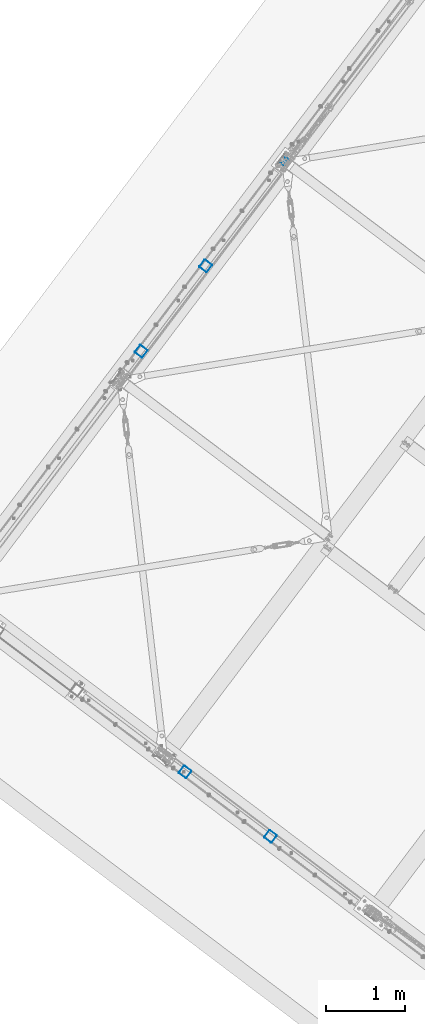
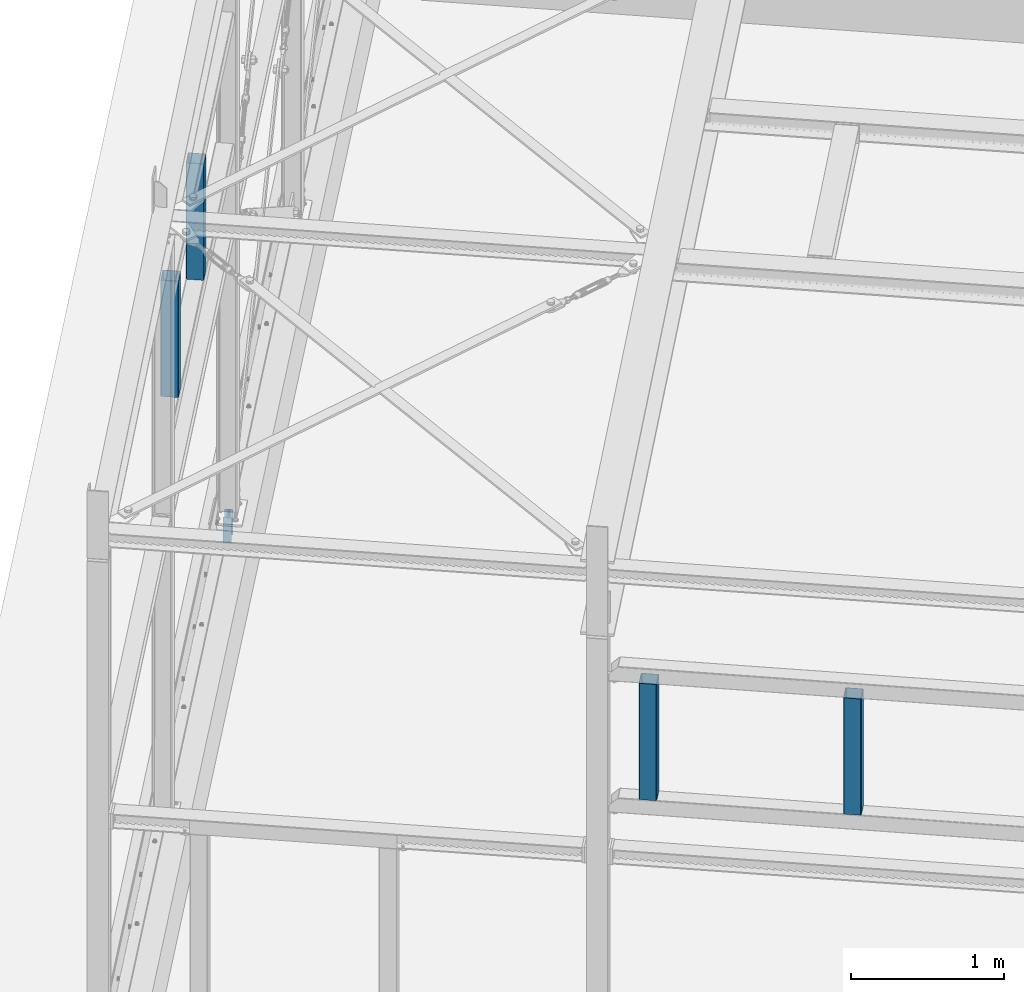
# One storey, part 9 of 476: 5 columns, 2 openings.
"""IFC2X3 building model written with IfcOpenShell, lengths in millimetres."""

from ifc_helpers import new_model, entity, si_unit, converted_unit, frame, origin, origin_with_axes, origin_2d, origin_2d_with_axis, place, context, project, spatial, hollow_rectangle, circle, i_section, extrude, material, element, save


model = new_model("IFC2X3")

# Units and contexts
model_context = context("Model", 3, precision=1e-09, world=origin_with_axes())
ifc_project = project(units=[si_unit("LENGTHUNIT", "METRE", prefix="MILLI"), si_unit("AREAUNIT", "SQUARE_METRE"), si_unit("VOLUMEUNIT", "CUBIC_METRE"), converted_unit("PLANEANGLEUNIT", "DEGREE", entity("IfcPlaneAngleMeasure", 0.01745329), si_unit("PLANEANGLEUNIT", "RADIAN"), dimensions=[0, 0, 0, 0, 0, 0, 0])], contexts=[model_context])

# Site, building, storey
site_placement = place(None, origin_with_axes())
site = spatial("IfcSite", under=ifc_project, at=site_placement, Name="mKR Teilneubau & Sanierung BA1 - Ostfildern", CompositionType="ELEMENT")
building_placement = place(site_placement, origin_with_axes())
building = spatial("IfcBuilding", under=site, at=building_placement, Name="Struktur 1", CompositionType="ELEMENT")
storey_placement = place(building_placement, origin_with_axes())
storey = spatial("IfcBuildingStorey", under=building, at=storey_placement, Name="Default Storey", CompositionType="ELEMENT", Elevation=0.0)

# Columns
ifc_material = material(Name="S235JR")
column_1_placement = place(None, frame((2587.599908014, 3146.048106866, 4519.99999718), z_axis=(0.0, 0.0, 1.0), x_axis=(0.602734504, 0.797941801, 0.0)))
element("IfcColumn", 1, at=column_1_placement, inside=storey, material=ifc_material, Name="-", ObjectType="-", context=model_context, shape_type="SweptSolid", body=[
    extrude(hollow_rectangle(XDim=120.0, YDim=120.0, WallThickness=4.0, InnerFilletRadius=4.0, OuterFilletRadius=8.0, at=origin_2d()), origin(), (0.0, 0.0, -1.0), 930.000003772),
])
column_2_placement = place(None, frame((3141.735979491, -2161.979859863, 4320.0), z_axis=(0.0, 0.0, 1.0), x_axis=(-0.797941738, 0.602734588, 0.0)))
element("IfcColumn", 2, at=column_2_placement, inside=storey, material=ifc_material, Name="-", ObjectType="-", context=model_context, shape_type="SweptSolid", body=[
    extrude(hollow_rectangle(XDim=120.0, YDim=120.0, WallThickness=4.0, InnerFilletRadius=4.0, OuterFilletRadius=8.0, at=origin_2d()), origin(), (0.0, 0.0, -1.0), 930.0),
])

# Column, openings
column_3_placement = place(None, frame((4404.003464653, 5539.945112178, 530.0), z_axis=(0.0, 0.0, 1.0), x_axis=(-0.797941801, 0.602734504, 0.0)))
column_3 = element("IfcColumn", 3, at=column_3_placement, inside=storey, material=ifc_material, Name="AnchorBeam", ObjectType="AnchorBeam", context=model_context, shape_type="SweptSolid", body=[
    extrude(i_section(OverallWidth=55.0, OverallDepth=100.0, WebThickness=4.1, FlangeThickness=5.7, FilletRadius=7.0, at=origin_2d()), origin(), (0.0, 0.0, -1.0), 200.0),
])
opening_1_placement = place(column_3_placement, frame((-2.55, 29.0, -15.0), z_axis=(1.0, 0.0, 0.0), x_axis=(0.0, 0.0, -1.0)))
element("IfcOpeningElement", 4, at=opening_1_placement, cuts=column_3, ObjectType="Opening", context=model_context, shape_type="SweptSolid", body=[
    extrude(circle(Radius=6.001, at=origin_2d_with_axis()), origin(), (0.0, 0.0, 1.0), 5.1),
])
opening_2_placement = place(column_3_placement, frame((-2.55, -29.0, -15.0), z_axis=(1.0, 0.0, 0.0), x_axis=(0.0, 0.0, -1.0)))
element("IfcOpeningElement", 5, at=opening_2_placement, cuts=column_3, ObjectType="Opening", context=model_context, shape_type="SweptSolid", body=[
    extrude(circle(Radius=6.001, at=origin_2d_with_axis()), origin(), (0.0, 0.0, 1.0), 5.1),
])

# Columns
column_4_placement = place(None, frame((3401.291488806, 4223.26953784, 4520.0), z_axis=(0.0, 0.0, 1.0), x_axis=(0.602734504, 0.797941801, 0.0)))
element("IfcColumn", 6, at=column_4_placement, inside=storey, material=ifc_material, Name="-", ObjectType="-", context=model_context, shape_type="SweptSolid", body=[
    extrude(hollow_rectangle(XDim=120.0, YDim=120.0, WallThickness=4.0, InnerFilletRadius=4.0, OuterFilletRadius=8.0, at=origin_2d()), origin(), (0.0, 0.0, -1.0), 930.000003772),
])
column_5_placement = place(None, frame((4218.95732519, -2975.671553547, 4320.0), z_axis=(0.0, 0.0, 1.0), x_axis=(-0.797941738, 0.602734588, 0.0)))
element("IfcColumn", 7, at=column_5_placement, inside=storey, material=ifc_material, Name="-", ObjectType="-", context=model_context, shape_type="SweptSolid", body=[
    extrude(hollow_rectangle(XDim=120.0, YDim=120.0, WallThickness=4.0, InnerFilletRadius=4.0, OuterFilletRadius=8.0, at=origin_2d()), origin(), (0.0, 0.0, -1.0), 930.0),
])

save(model, "model.ifc")
